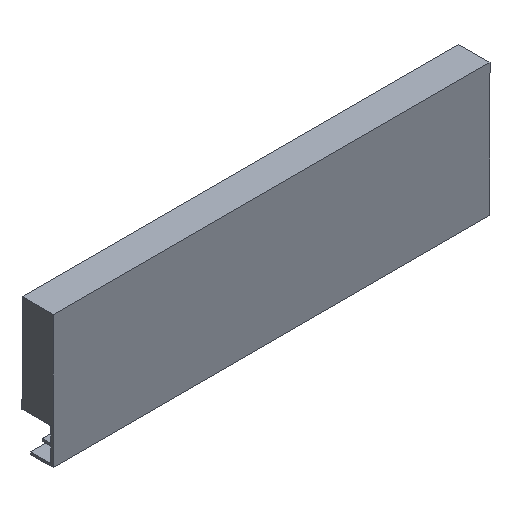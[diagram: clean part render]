
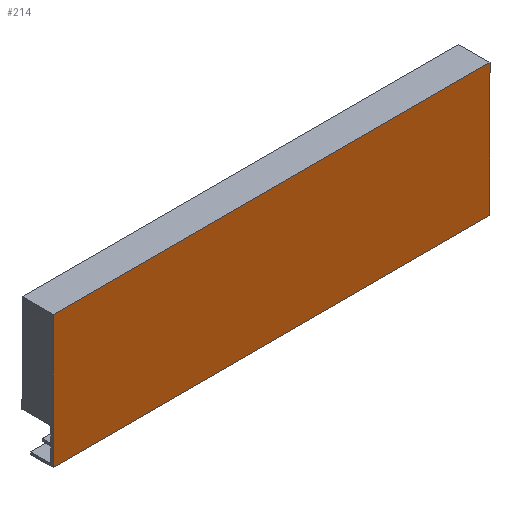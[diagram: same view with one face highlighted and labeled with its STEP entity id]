
A CAD part, isometric view. The second image highlights one B-rep face of the part: STEP entity #214.
In plain terms, the highlighted planar face has unit normal (0, -1, 0).
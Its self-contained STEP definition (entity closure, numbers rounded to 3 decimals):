
#32 = PLANE ( 'NONE',  #152 ) ;
#35 = CARTESIAN_POINT ( 'NONE',  ( -111.5, -5.5, -17.9 ) ) ;
#41 = DIRECTION ( 'NONE',  ( 0., 1., 0. ) ) ;
#42 = DIRECTION ( 'NONE',  ( 0., 0., -1. ) ) ;
#65 = CARTESIAN_POINT ( 'NONE',  ( -111.5, -5.5, -17.9 ) ) ;
#81 = CARTESIAN_POINT ( 'NONE',  ( 111.5, -5.5, 49.7 ) ) ;
#82 = CARTESIAN_POINT ( 'NONE',  ( 111.5, -5.5, -17.9 ) ) ;
#83 = CARTESIAN_POINT ( 'NONE',  ( -111.5, -5.5, 49.7 ) ) ;
#134 = EDGE_CURVE ( 'NONE', #448, #468, #367, .T. ) ;
#136 = EDGE_CURVE ( 'NONE', #448, #465, #379, .T. ) ;
#152 = AXIS2_PLACEMENT_3D ( 'NONE', #35, #41, #42 ) ;
#161 = EDGE_CURVE ( 'NONE', #465, #464, #393, .T. ) ;
#169 = EDGE_CURVE ( 'NONE', #468, #464, #409, .T. ) ;
#187 = DIRECTION ( 'NONE',  ( 1., 0., 0. ) ) ;
#188 = CARTESIAN_POINT ( 'NONE',  ( -111.5, -5.5, 49.7 ) ) ;
#202 = DIRECTION ( 'NONE',  ( 0., 0., 1. ) ) ;
#204 = CARTESIAN_POINT ( 'NONE',  ( 111.5, -5.5, -17.9 ) ) ;
#214 = ADVANCED_FACE ( 'NONE', ( #423 ), #32, .F. ) ;
#267 = EDGE_LOOP ( 'NONE', ( #297, #298, #299, #300 ) ) ;
#297 = ORIENTED_EDGE ( 'NONE', *, *, #161, .T. ) ;
#298 = ORIENTED_EDGE ( 'NONE', *, *, #169, .F. ) ;
#299 = ORIENTED_EDGE ( 'NONE', *, *, #134, .F. ) ;
#300 = ORIENTED_EDGE ( 'NONE', *, *, #136, .T. ) ;
#367 = LINE ( 'NONE', #522, #375 ) ;
#375 = VECTOR ( 'NONE', #473, 1000. ) ;
#379 = LINE ( 'NONE', #527, #380 ) ;
#380 = VECTOR ( 'NONE', #523, 1000. ) ;
#393 = LINE ( 'NONE', #204, #394 ) ;
#394 = VECTOR ( 'NONE', #202, 1000. ) ;
#409 = LINE ( 'NONE', #188, #410 ) ;
#410 = VECTOR ( 'NONE', #187, 1000. ) ;
#423 = FACE_OUTER_BOUND ( 'NONE', #267, .T. ) ;
#448 = VERTEX_POINT ( 'NONE', #65 ) ;
#464 = VERTEX_POINT ( 'NONE', #81 ) ;
#465 = VERTEX_POINT ( 'NONE', #82 ) ;
#468 = VERTEX_POINT ( 'NONE', #83 ) ;
#473 = DIRECTION ( 'NONE',  ( 0., 0., 1. ) ) ;
#522 = CARTESIAN_POINT ( 'NONE',  ( -111.5, -5.5, -17.9 ) ) ;
#523 = DIRECTION ( 'NONE',  ( 1., 0., 0. ) ) ;
#527 = CARTESIAN_POINT ( 'NONE',  ( -111.5, -5.5, -17.9 ) ) ;
